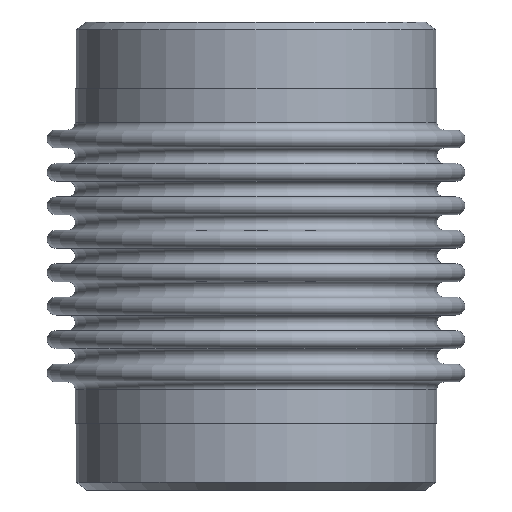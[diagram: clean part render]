
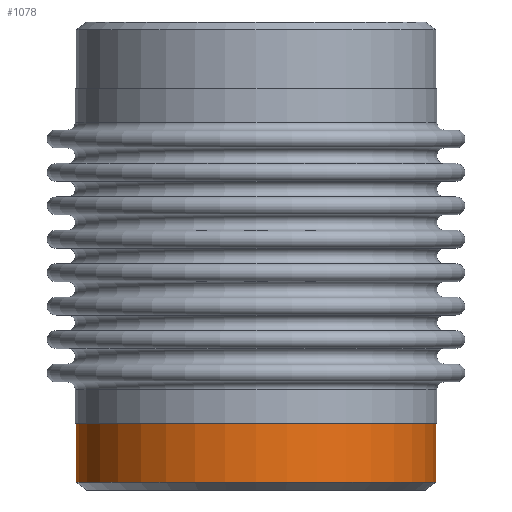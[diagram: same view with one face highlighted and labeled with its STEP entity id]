
A CAD part, front view. The second image highlights one B-rep face of the part: STEP entity #1078.
In plain terms, the highlighted cylindrical face has radius 136.525 mm (diameter 273.05 mm), a full revolution.
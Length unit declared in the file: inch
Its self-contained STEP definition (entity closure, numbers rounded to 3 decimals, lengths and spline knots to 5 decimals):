
#53=LINE('',#1977,#61);
#61=VECTOR('',#1678,5.375);
#68=CYLINDRICAL_SURFACE('',#1291,5.375);
#181=FACE_OUTER_BOUND('',#295,.T.);
#295=EDGE_LOOP('',(#857,#858,#859,#860,#861));
#309=CIRCLE('',#1111,5.375);
#416=CIRCLE('',#1288,5.375);
#417=CIRCLE('',#1289,5.375);
#427=VERTEX_POINT('',#1717);
#500=VERTEX_POINT('',#1969);
#501=VERTEX_POINT('',#1970);
#511=EDGE_CURVE('',#427,#427,#309,.T.);
#620=EDGE_CURVE('',#500,#501,#416,.T.);
#621=EDGE_CURVE('',#501,#500,#417,.T.);
#624=EDGE_CURVE('',#501,#427,#53,.T.);
#857=ORIENTED_EDGE('',*,*,#620,.F.);
#858=ORIENTED_EDGE('',*,*,#621,.F.);
#859=ORIENTED_EDGE('',*,*,#624,.T.);
#860=ORIENTED_EDGE('',*,*,#511,.T.);
#861=ORIENTED_EDGE('',*,*,#624,.F.);
#1078=ADVANCED_FACE('',(#181),#68,.T.);
#1111=AXIS2_PLACEMENT_3D('',#1718,#1313,#1314);
#1288=AXIS2_PLACEMENT_3D('',#1971,#1669,#1670);
#1289=AXIS2_PLACEMENT_3D('',#1972,#1671,#1672);
#1291=AXIS2_PLACEMENT_3D('',#1976,#1676,#1677);
#1313=DIRECTION('center_axis',(0.,0.,
-1.));
#1314=DIRECTION('ref_axis',(1.,0.,0.));
#1669=DIRECTION('center_axis',(0.,0.,-1.));
#1670=DIRECTION('ref_axis',(-1.,0.,0.));
#1671=DIRECTION('center_axis',(0.,0.,-1.));
#1672=DIRECTION('ref_axis',(-1.,0.,0.));
#1676=DIRECTION('center_axis',(0.,0.,-1.));
#1677=DIRECTION('ref_axis',(1.,0.,0.));
#1678=DIRECTION('',(0.,0.,1.));
#1717=CARTESIAN_POINT('',(-5.375,0.,-10.5));
#1718=CARTESIAN_POINT('Origin',(0.,0.,
-10.5));
#1969=CARTESIAN_POINT('',(5.375,0.,-12.26788));
#1970=CARTESIAN_POINT('',(-5.375,0.,-12.26788));
#1971=CARTESIAN_POINT('Origin',(0.,0.,
-12.26788));
#1972=CARTESIAN_POINT('Origin',(0.,0.,
-12.26788));
#1976=CARTESIAN_POINT('Origin',(0.,0.,
-11.));
#1977=CARTESIAN_POINT('',(-5.375,0.,-11.));
